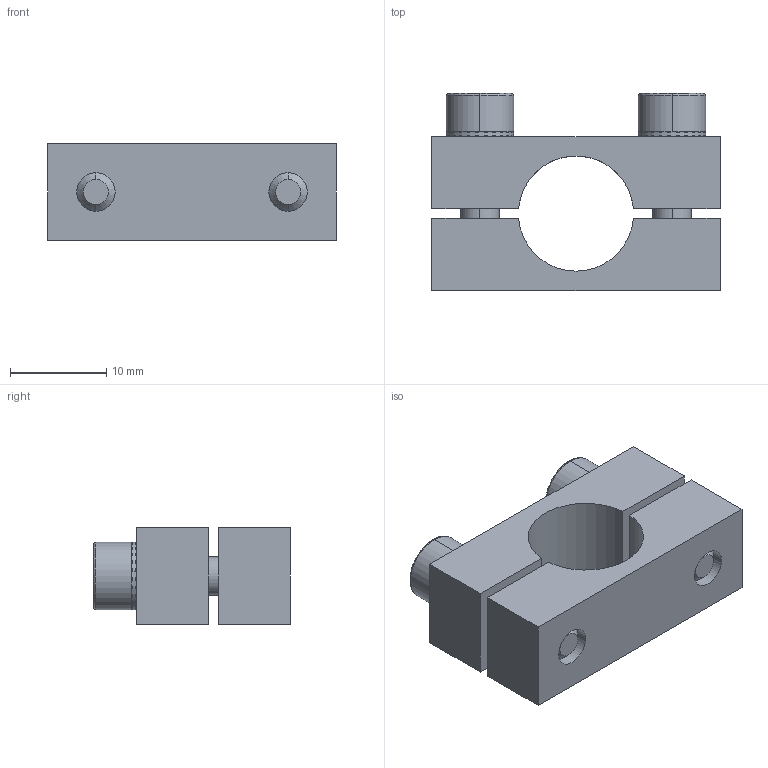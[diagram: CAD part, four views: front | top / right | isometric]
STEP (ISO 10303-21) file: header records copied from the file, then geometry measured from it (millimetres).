
FILE_DESCRIPTION (( 'STEP AP214' ), '1' );
FILE_NAME ('SMBS-12T10.STEP', '2019-11-07T01:38:41', ( '微软用户' ), ( '微软中国' ), 'SwSTEP 2.0', 'SolidWorks 2016', '' );
FILE_SCHEMA (( 'AUTOMOTIVE_DESIGN' ));
Length unit declared in the file: millimetre
Products named in the file (1): SMBS-12T10
Bounding box: 30 x 20.5 x 10 mm (x, y, z)
Volume: 3679.6 mm3; surface area: 3542.2 mm2
Topology: 6 solids, 6 shells, 459 faces, 1311 edges, 866 vertices
Faces by surface type: plane 420, cylinder 31, cone 4, bspline 4
Entity records: 20409 total; most frequent: CARTESIAN_POINT 2885, DIRECTION 2649, ORIENTED_EDGE 2622, EDGE_CURVE 1311, AXIS2_PLACEMENT_3D 890, LINE 869, VECTOR 869, VERTEX_POINT 866
